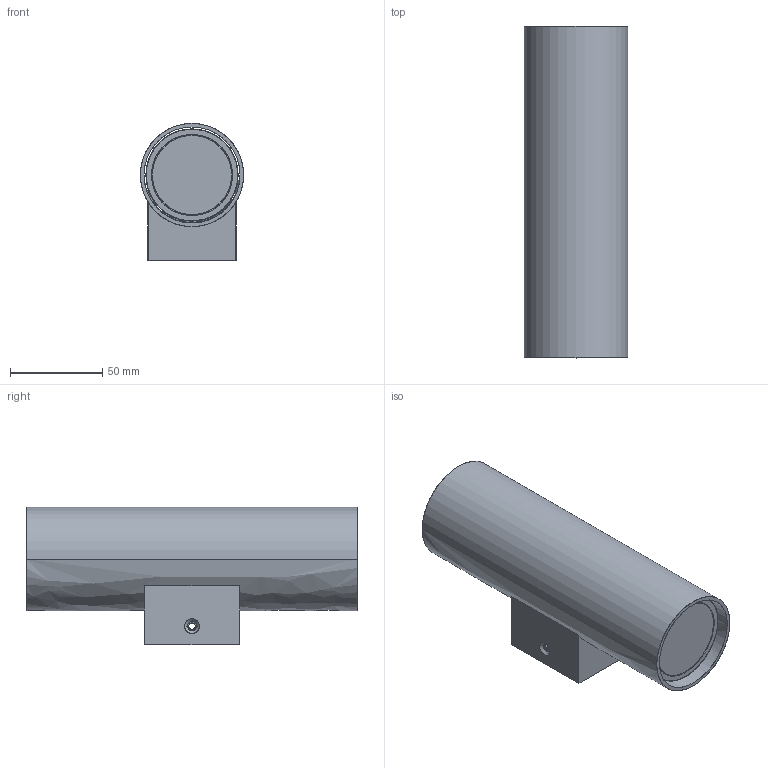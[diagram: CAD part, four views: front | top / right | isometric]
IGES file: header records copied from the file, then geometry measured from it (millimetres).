
Start section: SolidWorks IGES file using analytic representation for surfaces
Global section: file name: \\srvficheros\grupos\DISENYO\DESARROLLO DE PRODUCTO\_3D_WEB\ZOOM-A37640\ZOOM-A37640.IGS; native system: SolidWorks 2025; preprocessor: SolidWorks 2025; author: d.pons; date: 260115.120307; units: millimetre
Bounding box: 56 x 180 x 74.42 mm (x, y, z)
Surface area: 116929.7 mm2 (no closed solid volume)
Topology: 0 solids, 0 shells, 1083 faces, 13490 edges, 13480 vertices
Faces by surface type: bspline 635, revolution 448
